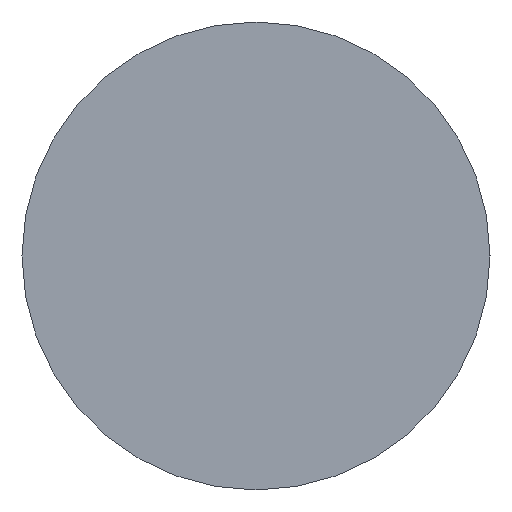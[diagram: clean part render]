
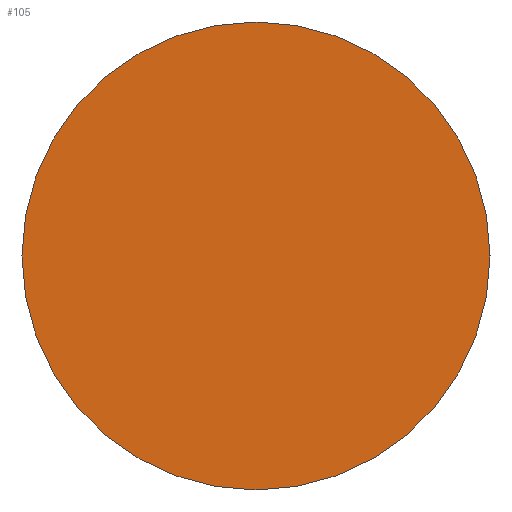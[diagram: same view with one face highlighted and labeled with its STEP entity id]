
A CAD part, left-side view. The second image highlights one B-rep face of the part: STEP entity #105.
In plain terms, the highlighted planar face has unit normal (-1, 0, 0).
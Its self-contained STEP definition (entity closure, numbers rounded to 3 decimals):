
#22 = VERTEX_POINT('',#23);
#23 = CARTESIAN_POINT('',(-40.,-27.74,2.2));
#32 = CYLINDRICAL_SURFACE('',#33,1.05);
#33 = AXIS2_PLACEMENT_3D('',#34,#35,#36);
#34 = CARTESIAN_POINT('',(-40.,-28.79,2.2));
#35 = DIRECTION('',(-1.,-0.,-0.));
#36 = DIRECTION('',(0.,1.,0.));
#79 = EDGE_CURVE('',#22,#22,#80,.T.);
#80 = SURFACE_CURVE('',#81,(#86,#93),.PCURVE_S1.);
#81 = CIRCLE('',#82,1.05);
#82 = AXIS2_PLACEMENT_3D('',#83,#84,#85);
#83 = CARTESIAN_POINT('',(-40.,-28.79,2.2));
#84 = DIRECTION('',(1.,0.,0.));
#85 = DIRECTION('',(0.,1.,0.));
#86 = PCURVE('',#32,#87);
#87 = DEFINITIONAL_REPRESENTATION('',(#88),#92);
#88 = LINE('',#89,#90);
#89 = CARTESIAN_POINT('',(-0.,0.));
#90 = VECTOR('',#91,1.);
#91 = DIRECTION('',(-1.,0.));
#92 = ( GEOMETRIC_REPRESENTATION_CONTEXT(2) 
PARAMETRIC_REPRESENTATION_CONTEXT() REPRESENTATION_CONTEXT('2D SPACE',''
  ) );
#93 = PCURVE('',#94,#99);
#94 = PLANE('',#95);
#95 = AXIS2_PLACEMENT_3D('',#96,#97,#98);
#96 = CARTESIAN_POINT('',(-40.,-28.79,2.2));
#97 = DIRECTION('',(1.,0.,0.));
#98 = DIRECTION('',(-0.,0.,1.));
#99 = DEFINITIONAL_REPRESENTATION('',(#100),#104);
#100 = CIRCLE('',#101,1.05);
#101 = AXIS2_PLACEMENT_2D('',#102,#103);
#102 = CARTESIAN_POINT('',(0.,0.));
#103 = DIRECTION('',(0.,-1.));
#104 = ( GEOMETRIC_REPRESENTATION_CONTEXT(2) 
PARAMETRIC_REPRESENTATION_CONTEXT() REPRESENTATION_CONTEXT('2D SPACE',''
  ) );
#105 = ADVANCED_FACE('',(#106),#94,.F.);
#106 = FACE_BOUND('',#107,.F.);
#107 = EDGE_LOOP('',(#108));
#108 = ORIENTED_EDGE('',*,*,#79,.T.);
